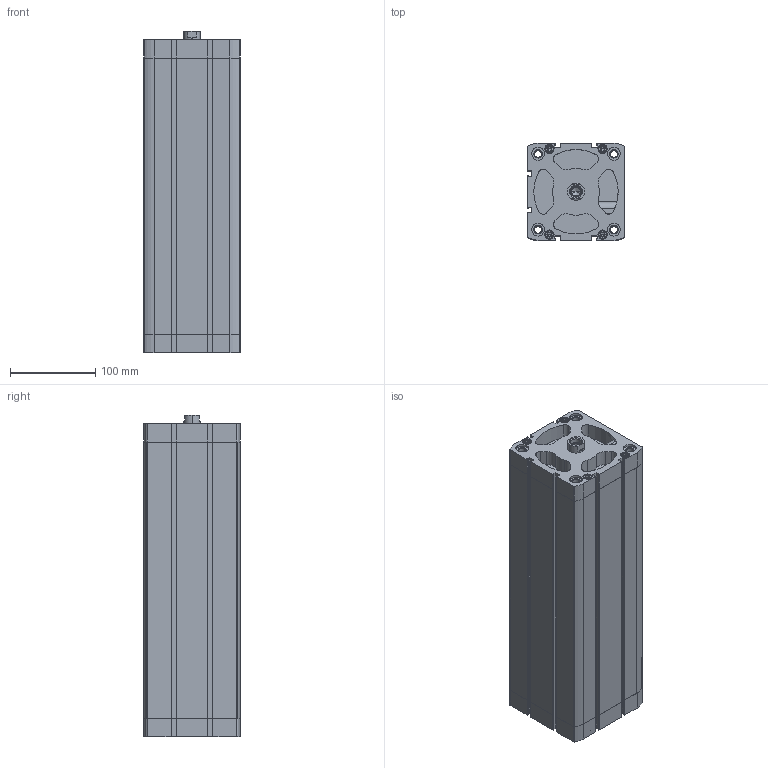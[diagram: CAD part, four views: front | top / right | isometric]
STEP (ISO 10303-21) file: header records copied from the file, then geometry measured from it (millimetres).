
FILE_DESCRIPTION (( 'STEP AP203' ), '1' );
FILE_NAME ('CCN100-300F.STEP', '2020-06-05T18:15:53', ( '' ), ( '' ), 'SwSTEP 2.0', 'SolidWorks 2019', '' );
FILE_SCHEMA (( 'CONFIG_CONTROL_DESIGN' ));
Length unit declared in the file: millimetre
Products named in the file (1): CCN100-300F
Bounding box: 113.5 x 113.5 x 376.8 mm (x, y, z)
Volume: 2104034.4 mm3; surface area: 440694.9 mm2
Topology: 2 solids, 2 shells, 628 faces, 1631 edges, 1043 vertices
Faces by surface type: plane 284, cylinder 270, cone 74
Entity records: 20342 total; most frequent: CARTESIAN_POINT 4507, DIRECTION 3451, ORIENTED_EDGE 3226, EDGE_CURVE 1613, AXIS2_PLACEMENT_3D 1281, VERTEX_POINT 1043, VECTOR 889, LINE 889
